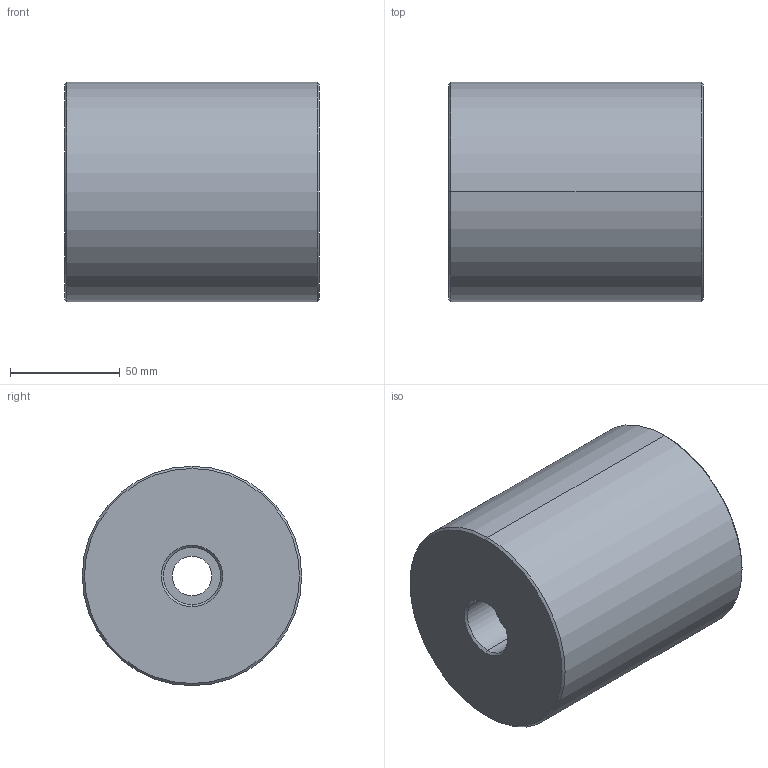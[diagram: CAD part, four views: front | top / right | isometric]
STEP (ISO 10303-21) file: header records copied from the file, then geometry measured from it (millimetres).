
FILE_DESCRIPTION (( 'STEP AP214' ), '1' );
FILE_NAME ('BR571-100x116.STEP', '2021-03-02T14:11:05', ( '' ), ( '' ), 'SwSTEP 2.0', 'SolidWorks 2018', '' );
FILE_SCHEMA (( 'AUTOMOTIVE_DESIGN' ));
Length unit declared in the file: millimetre
Products named in the file (1): BR571-100x116
Bounding box: 116 x 100 x 100 mm (x, y, z)
Volume: 876183.9 mm3; surface area: 58204.5 mm2
Topology: 1 solids, 1 shells, 17 faces, 34 edges, 20 vertices
Faces by surface type: cone 8, cylinder 6, plane 3
Entity records: 482 total; most frequent: DIRECTION 90, CARTESIAN_POINT 72, ORIENTED_EDGE 68, AXIS2_PLACEMENT_3D 38, EDGE_CURVE 34, CIRCLE 20, VERTEX_POINT 20, EDGE_LOOP 20
